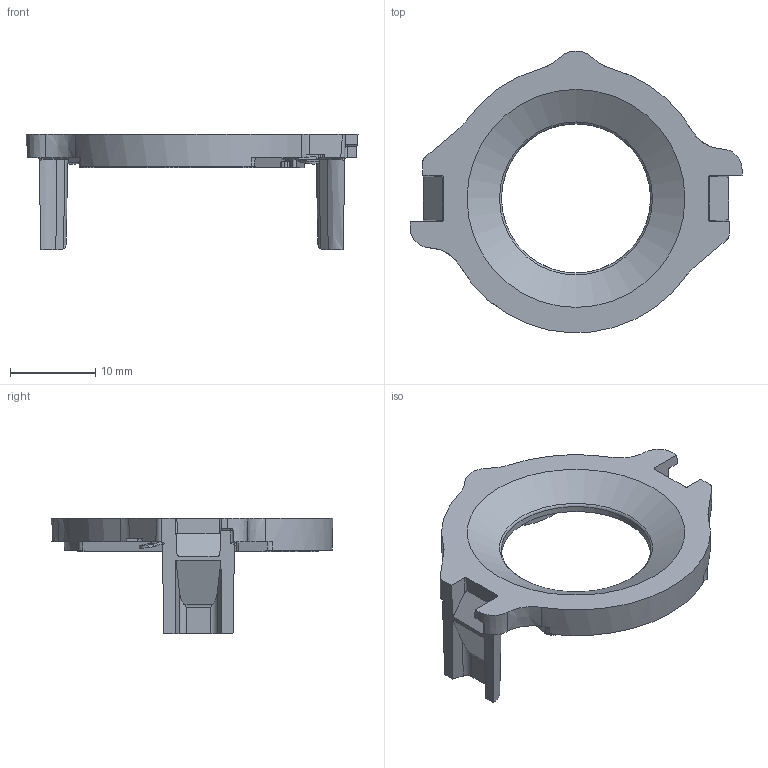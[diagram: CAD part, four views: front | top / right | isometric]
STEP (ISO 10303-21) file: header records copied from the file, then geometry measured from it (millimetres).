
FILE_DESCRIPTION(/* description */ ('Unknown'),/* implementation_level */ '2;1');
FILE_NAME(/* name */ '025-709-03',/* time_stamp */ '2026-02-16T13:05:34+01:00',/* author */ ('Unknown'),/* organization */ ('Unknown'),/* preprocessor_version */ 'ST-DEVELOPER v16.7',/* originating_system */ 'Solid Edge',/* authorisation */ 'Unknown');
FILE_SCHEMA (('AUTOMOTIVE_DESIGN {1 0 10303 214 3 1 1}'));
Length unit declared in the file: millimetre
Products named in the file (1): 025-709-03
Bounding box: 39 x 33.07 x 13.6 mm (x, y, z)
Volume: 1766.5 mm3; surface area: 2633.8 mm2
Topology: 1 solids, 1 shells, 505 faces, 1440 edges, 931 vertices
Faces by surface type: plane 218, cone 140, cylinder 85, bspline 39, torus 19, sphere 4
Full cylindrical faces by diameter (mm): 0.04 x2
Entity records: 21256 total; most frequent: CARTESIAN_POINT 4959, ORIENTED_EDGE 2828, DIRECTION 2511, EDGE_CURVE 1414, VERTEX_POINT 925, AXIS2_PLACEMENT_3D 925, LINE 661, VECTOR 661
